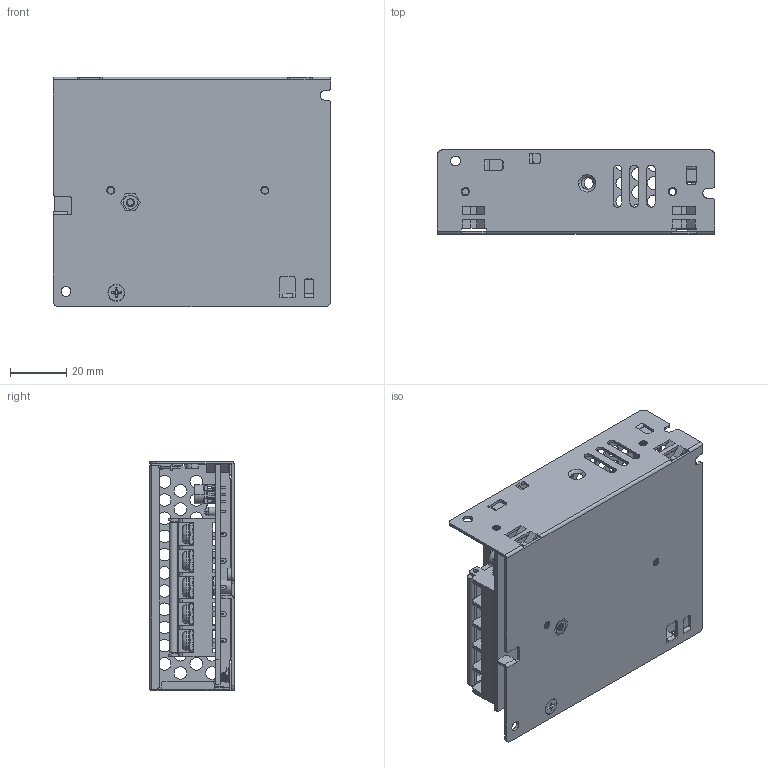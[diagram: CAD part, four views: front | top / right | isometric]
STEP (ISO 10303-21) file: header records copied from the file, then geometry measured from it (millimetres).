
FILE_DESCRIPTION (( 'STEP AP214' ), '1' );
FILE_NAME ('LCS35-C.STEP', '2020-12-24T10:02:32', ( '' ), ( '' ), 'SwSTEP 2.0', 'SolidWorks 2020', '' );
FILE_SCHEMA (( 'AUTOMOTIVE_DESIGN' ));
Length unit declared in the file: millimetre
Products named in the file (30): M4-7-75SCREW_5_1_1; M3X8_16_1_1; PRT0143_1_1; ASM0263_ASM_1_ASM_1_ASM; PRT0175_1_1; M40001_4_1_1_2; DC49H-HOUSING0001_12_1_1; COVER_ASM_1_ASM_1_ASM; CAVE_ASM_6_ASM_1_ASM; ASM0360_ASM_1_ASM_1_ASM; COVER_44_1; DC49HB-950_ASM_6_ASM_1_ASM_1_ASM; DP_2_1_1; KM3X5_1_1; CHASSIS_61_1; LCS35-C; ASM0314_ASM_1_ASM_1_ASM; M40001_4_1_1; 95_5PIN_PZ_COVER_ASM; PM3X6-_ASM_1_ASM_1_ASM; 95_5PIN_PZ_COVER_ASM_8_ASM; TH_5_1_1; CHASSIS_ASM_9_ASM_1_ASM; M3X8_ASM_4_ASM_1_ASM_1_ASM; 00-LCS35_ASM_31_ASM_1_ASM; ASM0264_ASM_1_ASM_1_ASM; DC49B-TERMINAL00_3_1_2; DC49H-COVER_4_1_2; LUOZHU_2_1; PRT0230_1_1
Assembly tree (45 placements, depth 8):
  LCS35-C
    00-LCS35_ASM_31_ASM_1_ASM
      CAVE_ASM_6_ASM_1_ASM
        CHASSIS_ASM_9_ASM_1_ASM
          CHASSIS_61_1
          LUOZHU_2_1
        COVER_ASM_1_ASM_1_ASM
          COVER_44_1
      ASM0263_ASM_1_ASM_1_ASM
        ASM0264_ASM_1_ASM_1_ASM
          PRT0143_1_1
          ASM0314_ASM_1_ASM_1_ASM
            PRT0175_1_1
          ASM0360_ASM_1_ASM_1_ASM
            PRT0230_1_1
          95_5PIN_PZ_COVER_ASM
            95_5PIN_PZ_COVER_ASM_8_ASM
              DC49HB-950_ASM_6_ASM_1_ASM_1_ASM
                DC49H-HOUSING0001_12_1_1
                M40001_4_1_1_2  x5
                M40001_4_1_1  x5
                DC49B-TERMINAL00_3_1_2  x5
                M4-7-75SCREW_5_1_1  x5
                DC49H-COVER_4_1_2
      PM3X6-_ASM_1_ASM_1_ASM
        M3X8_ASM_4_ASM_1_ASM_1_ASM
          M3X8_16_1_1
          DP_2_1_1
          TH_5_1_1
      KM3X5_1_1
Bounding box: 99 x 30 x 82 mm (x, y, z)
Volume: 28816.2 mm3; surface area: 68945.9 mm2
Topology: 25 solids, 43 shells, 3117 faces, 9040 edges, 5956 vertices
Faces by surface type: plane 1675, cylinder 1096, cone 138, torus 120, bspline 88
Entity records: 98983 total; most frequent: CARTESIAN_POINT 36204, ORIENTED_EDGE 12674, DIRECTION 10749, EDGE_CURVE 6360, VERTEX_POINT 4212, VECTOR 3641, LINE 3641, AXIS2_PLACEMENT_3D 3554
